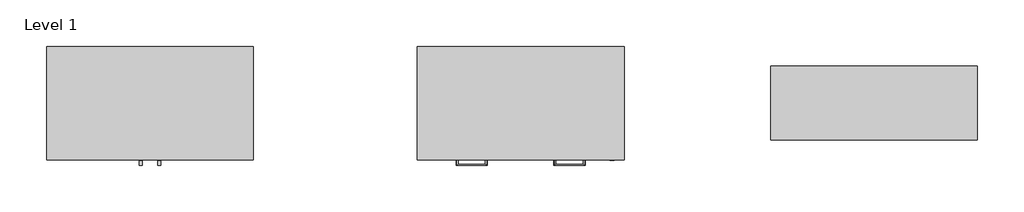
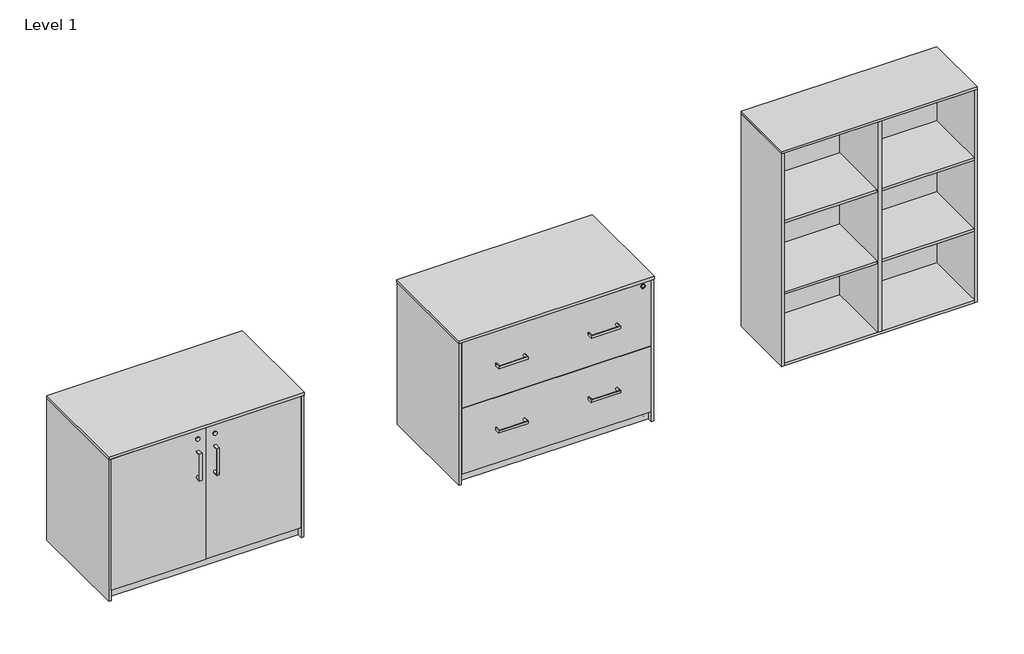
# One storey: 3 furniture elements.
"""IFC4 building model written with IfcOpenShell, lengths in millimetres."""

from ifc_helpers import new_model, si_unit, origin, place, context, project, spatial, transform, mapped, element, save
from components import furniture_2_door_bookcase_base_2_door_bookcase_base_32b6f320, furniture_2_drawer_lateral_file_2_drawer_lateral_file_50228bcf, open_bookcase_top_open_bookcase_top_8e54c097

model = new_model("IFC4")

# Units and contexts
model_context = context("Model", 3, world=origin())
ifc_project = project(units=[si_unit("LENGTHUNIT", "METRE", prefix="MILLI")], contexts=[model_context])

# Site, building, storey
site = spatial("IfcSite", under=ifc_project)
building = spatial("IfcBuilding", under=site)
storey = spatial("IfcBuildingStorey", under=building, Name="Level 1", Elevation=0.0)

# Furniture
placement = place(None, origin())
furniture_2_door_bookcase_base_2_door_bookcase_base_shape = furniture_2_door_bookcase_base_2_door_bookcase_base_32b6f320(model_context)
element("IfcFurniture", 1, ObjectType="2 Door Bookcase Base : 2 Door Bookcase Base", at=placement, inside=storey, context=model_context, shape_type="MappedRepresentation", body=[
    mapped(furniture_2_door_bookcase_base_2_door_bookcase_base_shape, transform((-10513.9700607, -455.549218, 0.0), x_axis=(1.0, 0.0, 0.0), y_axis=(0.0, 1.0, 0.0), z_axis=(0.0, 0.0, 1.0))),
])
furniture_2_drawer_lateral_file_2_drawer_lateral_file_shape = furniture_2_drawer_lateral_file_2_drawer_lateral_file_50228bcf(model_context)
element("IfcFurniture", 2, ObjectType="2 Drawer Lateral File : 2 Drawer Lateral File", at=placement, inside=storey, context=model_context, shape_type="MappedRepresentation", body=[
    mapped(furniture_2_drawer_lateral_file_2_drawer_lateral_file_shape, transform((-8866.1721536, -455.549218, 0.0), x_axis=(1.0, 0.0, 0.0), y_axis=(0.0, 1.0, 0.0), z_axis=(0.0, 0.0, 1.0))),
])
open_bookcase_top_open_bookcase_top_shape = open_bookcase_top_open_bookcase_top_8e54c097(model_context)
element("IfcFurniture", 3, ObjectType="Open Bookcase Top : Open Bookcase Top", at=placement, inside=storey, context=model_context, shape_type="MappedRepresentation", body=[
    mapped(open_bookcase_top_open_bookcase_top_shape, transform((-7295.2731634, -455.549218, 0.0), x_axis=(1.0, 0.0, 0.0), y_axis=(0.0, 1.0, 0.0), z_axis=(0.0, 0.0, 1.0))),
])

save(model, "model.ifc")
